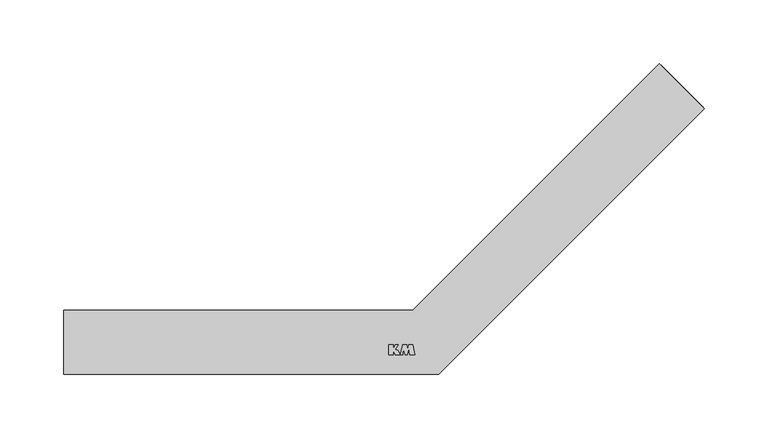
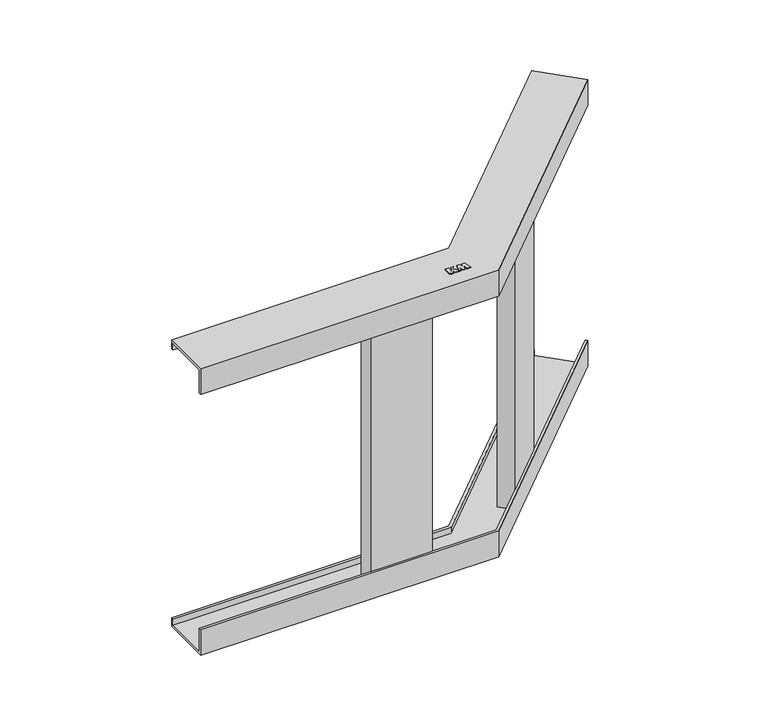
"""IFC4 building model written with IfcOpenShell, lengths in millimetres: cable carrier fitting geometry, КМ Профиль L Угол вертикальный внутренний «Быстрый монтаж» 45° : Угол вертикальный внутренний «Быстрый монтаж» 45°."""

from ifc_helpers import new_model, si_unit, frame, origin, place, context, project, spatial, polyline, outline, extrude, faceted_brep, source, transform, mapped, element, save


def cable_carrier_fitting_df56046e(model_context):
    return source(origin(), model_context, "Body", "SolidModel", [
        extrude(outline(polyline([(-29.2388781, -1.986157), (-25.7316192, -1.986157), (-25.7316192, -5.564509), (-23.8289757, -1.986157), (-21.703011, -1.986157), (-24.1694955, -5.5086619), (-21.9277444, -6.194034), (-20.0604353, -9.737421), (-23.9588467, -9.737421), (-25.6630512, -6.5720802), (-25.6630512, -9.737421), (-29.2388781, -9.737421), (-29.2388781, -1.986157)])), frame((0.0, 0.0, 150.0), z_axis=(0.0, 0.0, 1.0), x_axis=(1.0, 0.0, 0.0)), (0.0, 0.0, 1.0), 0.8),
        extrude(outline(polyline([(-17.9962759, -9.737421), (-19.8943395, -9.737421), (-18.0740589, -1.9647569), (-15.0433304, -1.9647569), (-14.2768297, -5.0390232), (-13.2555223, -1.9623682), (-10.0615674, -1.9623682), (-8.8700699, -9.7429915), (-12.7725105, -9.7429915), (-13.2500032, -5.0541919), (-14.7300717, -9.7434681), (-16.2045824, -9.7434681), (-17.6126012, -5.0696135), (-17.9962759, -9.737421)])), frame((0.0, 0.0, 150.0), z_axis=(0.0, 0.0, 1.0), x_axis=(1.0, 0.0, 0.0)), (0.0, 0.0, 1.0), 0.8),
        extrude(outline(polyline([(-54.1446609, -6.5), (-54.1446609, -22.5), (-115.1446609, -22.5), (-115.1446609, -6.5), (-54.1446609, -6.5)])), frame((0.0, 0.0, -145.0), z_axis=(0.0, 0.0, 1.0), x_axis=(1.0, 0.0, 0.0)), (0.0, 0.0, 1.0), 290.0),
        extrude(outline(polyline([(86.0157646, 76.8233765), (97.3294731, 65.509668), (54.1959595, 22.3761543), (42.882251, 33.6898628), (86.0157646, 76.8233765)])), frame((0.0, 0.0, -145.0), z_axis=(0.0, 0.0, 1.0), x_axis=(1.0, 0.0, 0.0)), (0.0, 0.0, 1.0), 290.0),
        faceted_brep([(-284.6446609, 25.0, 141.0), (-284.6446609, 22.5, 141.0), (-284.6446609, 22.5, 147.5), (-284.6446609, -22.5, 147.5), (-284.6446609, -22.5, 123.0), (-284.6446609, -25.0, 123.0), (-284.6446609, -25.0, 150.0), (-284.6446609, 25.0, 150.0), (-10.3553391, 25.0, 141.0), (183.5965005, 218.9518395, 141.0), (185.3642674, 217.1840726, 141.0), (-9.3198052, 22.5, 141.0), (-9.3198052, 22.5, 147.5), (185.3642674, 217.1840726, 147.5), (217.1840726, 185.3642674, 147.5), (9.3198052, -22.5, 147.5), (9.3198052, -22.5, 123.0), (217.1840726, 185.3642674, 123.0), (218.9518395, 183.5965005, 123.0), (10.3553391, -25.0, 123.0), (10.3553391, -25.0, 150.0), (218.9518395, 183.5965005, 150.0), (183.5965005, 218.9518395, 150.0), (-10.3553391, 25.0, 150.0)], [[[0, 1, 2, 3, 4, 5, 6, 7]], [[1, 0, 8, 9, 10, 11]], [[2, 1, 11, 12]], [[3, 2, 12, 13, 14, 15]], [[4, 3, 15, 16]], [[5, 4, 16, 17, 18, 19]], [[6, 5, 19, 20]], [[7, 6, 20, 21, 22, 23]], [[0, 7, 23, 8]], [[9, 22, 21, 18, 17, 14, 13, 10]], [[12, 11, 10, 13]], [[16, 15, 14, 17]], [[20, 19, 18, 21]], [[8, 23, 22, 9]]]),
        faceted_brep([(-284.6446609, 25.0, -141.0), (-284.6446609, 25.0, -150.0), (-284.6446609, -25.0, -150.0), (-284.6446609, -25.0, -123.0), (-284.6446609, -22.5, -123.0), (-284.6446609, -22.5, -147.5), (-284.6446609, 22.5, -147.5), (-284.6446609, 22.5, -141.0), (-10.3553391, 25.0, -141.0), (-10.3553391, 25.0, -150.0), (183.5965005, 218.9518395, -150.0), (218.9518395, 183.5965005, -150.0), (10.3553391, -25.0, -150.0), (10.3553391, -25.0, -123.0), (218.9518395, 183.5965005, -123.0), (217.1840726, 185.3642674, -123.0), (9.3198052, -22.5, -123.0), (9.3198052, -22.5, -147.5), (217.1840726, 185.3642674, -147.5), (185.3642674, 217.1840726, -147.5), (-9.3198052, 22.5, -147.5), (-9.3198052, 22.5, -141.0), (185.3642674, 217.1840726, -141.0), (183.5965005, 218.9518395, -141.0)], [[[0, 1, 2, 3, 4, 5, 6, 7]], [[1, 0, 8, 9]], [[2, 1, 9, 10, 11, 12]], [[3, 2, 12, 13]], [[4, 3, 13, 14, 15, 16]], [[5, 4, 16, 17]], [[6, 5, 17, 18, 19, 20]], [[7, 6, 20, 21]], [[0, 7, 21, 22, 23, 8]], [[23, 22, 19, 18, 15, 14, 11, 10]], [[9, 8, 23, 10]], [[13, 12, 11, 14]], [[17, 16, 15, 18]], [[21, 20, 19, 22]]]),
    ])


if __name__ == "__main__":
    model = new_model("IFC4")
    model_context = context("Model", 3, world=origin())
    ifc_project = project(units=[si_unit("LENGTHUNIT", "METRE", prefix="MILLI")], contexts=[model_context])
    site = spatial("IfcSite", under=ifc_project)
    building = spatial("IfcBuilding", under=site)
    placement = place(None, origin())
    cable_carrier_fitting_shape = cable_carrier_fitting_df56046e(model_context)
    element("IfcCableCarrierFitting", 1, ObjectType="КМ Профиль L Угол вертикальный внутренний «Быстрый монтаж» 45° : Угол вертикальный внутренний «Быстрый монтаж» 45°", at=placement, inside=building, context=model_context, shape_type="MappedRepresentation", body=[
        mapped(cable_carrier_fitting_shape, transform((0.0, 0.0, 0.0), x_axis=(1.0, 0.0, 0.0), y_axis=(0.0, 1.0, 0.0), z_axis=(0.0, 0.0, 1.0))),
    ])
    save(model, "model.ifc")
